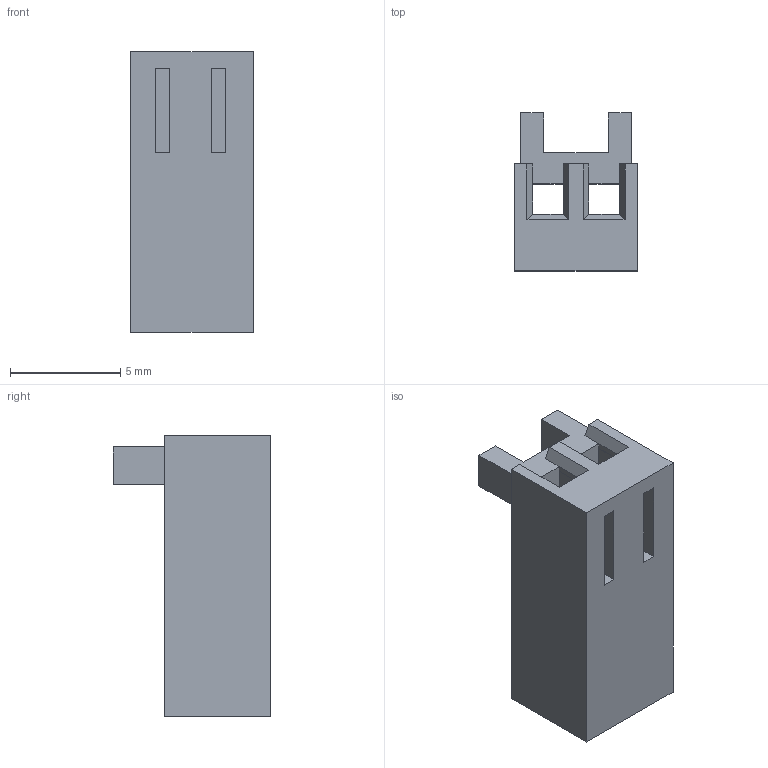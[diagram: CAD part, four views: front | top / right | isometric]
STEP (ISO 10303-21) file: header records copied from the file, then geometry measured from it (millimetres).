
FILE_DESCRIPTION((''),'2;1');
FILE_NAME('022012025','2012-12-06T',('gga'),(''),'PRO/ENGINEER BY PARAMETRIC TECHNOLOGY CORPORATION, 2011490','PRO/ENGINEER BY PARAMETRIC TECHNOLOGY CORPORATION, 2011490','');
FILE_SCHEMA(('CONFIG_CONTROL_DESIGN'));
Length unit declared in the file: millimetre
Products named in the file (1): 022012025
Bounding box: 5.54 x 7.14 x 12.7 mm (x, y, z)
Volume: 243.7 mm3; surface area: 564 mm2
Topology: 1 solids, 1 shells, 66 faces, 178 edges, 115 vertices
Faces by surface type: plane 66
Entity records: 2060 total; most frequent: CARTESIAN_POINT 357, ORIENTED_EDGE 352, DIRECTION 312, VECTOR 178, LINE 178, EDGE_CURVE 176, VERTEX_POINT 112, EDGE_LOOP 70
